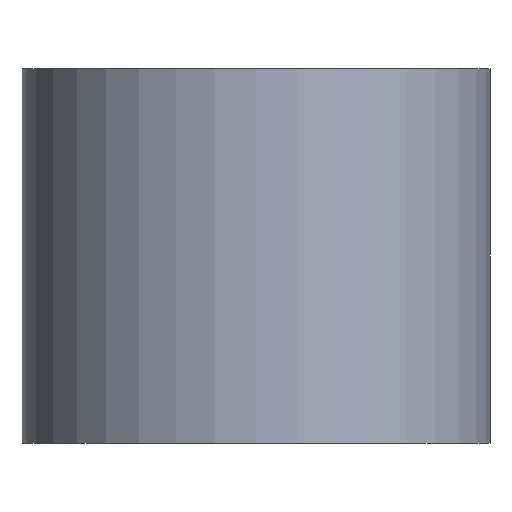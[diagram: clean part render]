
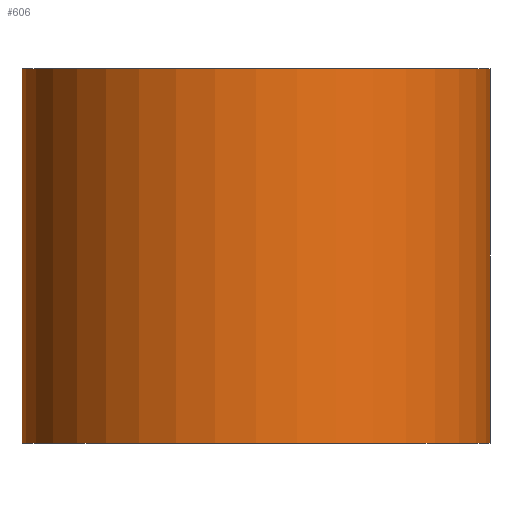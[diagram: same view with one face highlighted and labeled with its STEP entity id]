
A CAD part, front view. The second image highlights one B-rep face of the part: STEP entity #606.
In plain terms, the highlighted cylindrical face has radius 5 mm (diameter 10 mm), a full revolution.
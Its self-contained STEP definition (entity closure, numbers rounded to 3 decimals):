
#61=CIRCLE('',#261,5.);
#62=CIRCLE('',#268,5.);
#141=CYLINDRICAL_SURFACE('',#267,5.);
#217=DIRECTION('',(0.,0.,-1.));
#218=DIRECTION('',(5.,0.,0.));
#229=DIRECTION('',(0.,0.,1.));
#230=DIRECTION('',(5.,0.,0.));
#231=DIRECTION('',(0.,0.,1.));
#232=DIRECTION('',(5.,0.,0.));
#261=AXIS2_PLACEMENT_3D('',#858,#217,#218);
#267=AXIS2_PLACEMENT_3D('',#872,#229,#230);
#268=AXIS2_PLACEMENT_3D('',#873,#231,#232);
#312=VERTEX_POINT('',#859);
#315=VERTEX_POINT('',#874);
#377=EDGE_CURVE('',#312,#312,#61,.T.);
#383=EDGE_CURVE('',#315,#315,#62,.T.);
#508=ORIENTED_EDGE('',*,*,#377,.T.);
#509=ORIENTED_EDGE('',*,*,#383,.T.);
#542=EDGE_LOOP('',(#508));
#543=EDGE_LOOP('',(#509));
#576=FACE_BOUND('',#542,.T.);
#577=FACE_BOUND('',#543,.T.);
#606=ADVANCED_FACE('',(#576,#577),#141,.T.);
#858=CARTESIAN_POINT('',(0.,0.,8.));
#859=CARTESIAN_POINT('',(5.,0.,8.));
#872=CARTESIAN_POINT('',(0.,0.,0.));
#873=CARTESIAN_POINT('',(0.,0.,0.));
#874=CARTESIAN_POINT('',(5.,0.,0.));
